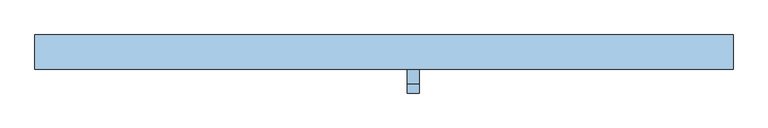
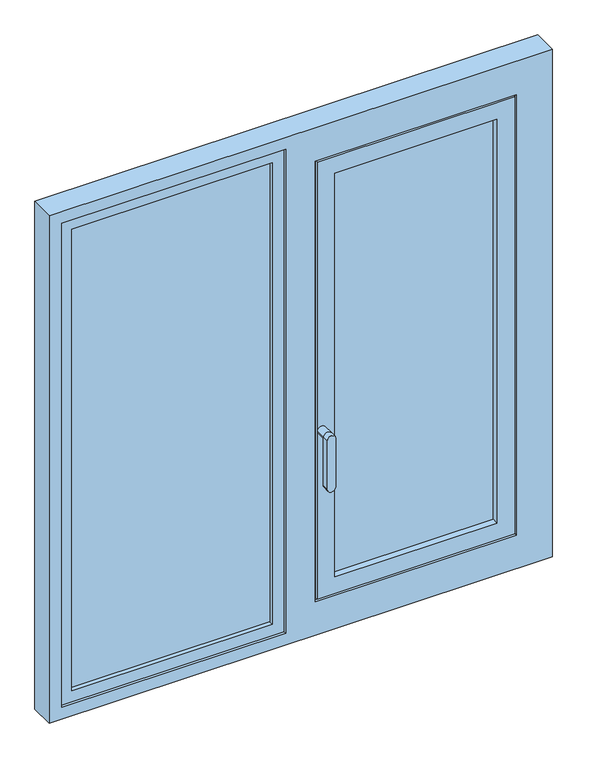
"""IFC4 building model written with IfcOpenShell, lengths in millimetres: window geometry, 900.04.033 : 900.04.033."""

from ifc_helpers import new_model, si_unit, frame, origin, place, context, project, spatial, polyline, circle_curve, outline, extrude, faceted_brep, source, transform, mapped, element, save
from ifc_brep_helpers import plane_surface, cylinder_surface, advanced_brep


def window_7ea07653(model_context):
    return source(origin(), model_context, "Body", "SolidModel", [
        advanced_brep(
        [(49.6035775, -24.9905812, 1442.0), (74.6035775, -24.9905812, 1442.0), (74.6035775, -54.9905812, 1442.0), (49.6035775, -54.9905812, 1442.0), (49.6035775, -74.9905812, 1442.0), (49.6035775, -74.9905812, 1292.0), (74.6035775, -74.9905812, 1292.0), (74.6035775, -74.9905812, 1442.0), (74.6035775, -54.9905812, 1292.0), (49.6035775, -54.9905812, 1292.0)],
        [
            (0, 1, circle_curve(frame((62.1035775, -24.9905812, 1442.0), z_axis=(0.0, 1.0, 0.0), x_axis=(1.0, 0.0, 0.0)), 12.5)),
            (1, 0, circle_curve(frame((62.1035775, -24.9905812, 1442.0), z_axis=(0.0, 1.0, 0.0), x_axis=(1.0, 0.0, 0.0)), 12.5)),
            (1, 2),
            (2, 3, circle_curve(frame((62.1035775, -54.9905812, 1442.0), z_axis=(0.0, 1.0, 0.0), x_axis=(1.0, 0.0, 0.0)), 12.5)),
            (3, 0),
            (3, 2, circle_curve(frame((62.1035775, -54.9905812, 1442.0), z_axis=(0.0, 1.0, 0.0), x_axis=(1.0, 0.0, 0.0)), 12.5)),
            (4, 5),
            (5, 6, circle_curve(frame((62.1035775, -74.9905812, 1292.0), z_axis=(0.0, -1.0, 0.0), x_axis=(1.0, 0.0, 0.0)), 12.5)),
            (6, 7),
            (7, 4, circle_curve(frame((62.1035775, -74.9905812, 1442.0), z_axis=(0.0, -1.0, 0.0), x_axis=(1.0, 0.0, 0.0)), 12.5)),
            (2, 8),
            (8, 9, circle_curve(frame((62.1035775, -54.9905812, 1292.0), z_axis=(0.0, 1.0, 0.0), x_axis=(1.0, 0.0, 0.0)), 12.5)),
            (9, 3),
            (4, 3),
            (9, 5),
            (8, 6),
            (2, 7),
        ],
        [
            plane_surface(frame((74.6035775, -24.9905812, 1442.0), z_axis=(0.0, 1.0, 0.0), x_axis=(0.0, 0.0, -1.0))),
            cylinder_surface(frame((62.1035775, -24.9905812, 1442.0), z_axis=(0.0, -1.0, 0.0), x_axis=(1.0, 0.0, 0.0)), 12.5),
            plane_surface(frame((49.6035775, -74.9905812, 1442.0), z_axis=(0.0, -1.0, 0.0), x_axis=(0.0, 0.0, -1.0))),
            plane_surface(frame((49.6035775, -54.9905812, 1442.0), z_axis=(0.0, 1.0, 0.0), x_axis=(0.0, 0.0, 1.0))),
            plane_surface(frame((49.6035775, -74.9905812, 1442.0), z_axis=(-1.0, 0.0, 0.0), x_axis=(0.0, 1.0, 0.0))),
            cylinder_surface(frame((62.1035775, -54.9905812, 1292.0), z_axis=(0.0, -1.0, 0.0), x_axis=(1.0, 0.0, 0.0)), 12.5),
            plane_surface(frame((74.6035775, -74.9905812, 1292.0), z_axis=(1.0, 0.0, 0.0), x_axis=(0.0, 1.0, 0.0))),
            cylinder_surface(frame((62.1035775, -54.9905812, 1442.0), z_axis=(0.0, -1.0, 0.0), x_axis=(1.0, 0.0, 0.0)), 12.5),
        ],
        [
            (0, [[1, 2]]),
            (1, [[-2, 3, 4, 5]]),
            (1, [[-1, -5, 6, -3]]),
            (2, [[7, 8, 9, 10]]),
            (3, [[11, 12, 13, -4]]),
            (4, [[-7, 14, -13, 15]]),
            (5, [[-8, -15, -12, 16]]),
            (6, [[-9, -16, -11, 17]]),
            (7, [[-10, -17, -6, -14]]),
        ],
    ),
        extrude(outline(polyline([(592.9971713, -5.0087582), (86.1528287, -5.0087582), (86.1528287, 39.4893721), (592.9971713, 39.4893721), (592.9971713, -5.0087582)])), frame((0.0, 0.0, 957.0028287), z_axis=(0.0, 0.0, 1.0), x_axis=(1.0, 0.0, 0.0)), (0.0, 0.0, 1.0), 1285.9943426),
        faceted_brep([(101.1484798, 48.0094652, 2228.0015202), (101.1484798, 41.0093721, 2228.0015202), (101.1484798, 41.0093721, 971.9984798), (101.1484798, 48.0094652, 971.9984798), (86.1528287, 41.0093721, 957.0028287), (592.9971713, 41.0093721, 957.0028287), (592.9971713, 41.0093721, 2242.9971713), (86.1528287, 41.0093721, 2242.9971713), (578.0015202, 41.0093721, 2228.0015202), (578.0015202, 41.0093721, 971.9984798), (578.0015202, 48.0094652, 971.9984798), (15.65, 48.0094652, 2313.5), (663.5, 48.0094652, 2313.5), (663.5, 48.0094652, 886.5), (15.65, 48.0094652, 886.5), (578.0015202, 48.0094652, 2228.0015202), (15.65, 40.0117115, 2313.5), (15.65, 40.0117115, 886.5), (663.5, 40.0117115, 886.5), (663.5, 40.0117115, 2313.5), (33.2493724, 40.0117115, 2295.9006276), (645.9006276, 40.0117115, 2295.9006276), (645.9006276, 40.0117115, 904.0993724), (33.2493724, 40.0117115, 904.0993724), (33.2504934, -16.7591735, 904.1004934), (33.2504934, -16.7591735, 2295.8995066), (645.8995066, -16.7591735, 904.1004934), (645.8995066, -16.7591735, 2295.8995066), (48.7522418, -16.7591735, 2280.3977582), (630.3977582, -16.7591735, 2280.3977582), (630.3977582, -16.7591735, 919.6022418), (48.7522418, -16.7591735, 919.6022418), (48.7522418, -24.9905812, 2280.3977582), (48.7522418, -24.9905812, 919.6022418), (630.3977582, -24.9905812, 919.6022418), (630.3977582, -24.9905812, 2280.3977582), (101.149394, -24.9905812, 2228.000606), (578.000606, -24.9905812, 2228.000606), (578.000606, -24.9905812, 971.999394), (101.149394, -24.9905812, 971.999394), (101.149394, -5.0087582, 2228.000606), (101.149394, -5.0087582, 971.999394), (578.000606, -5.0087582, 971.999394), (86.1528287, -5.0087582, 2242.9971713), (592.9971713, -5.0087582, 2242.9971713), (592.9971713, -5.0087582, 957.0028287), (86.1528287, -5.0087582, 957.0028287), (578.000606, -5.0087582, 2228.000606)], [[[0, 1, 2, 3]], [[4, 5, 6, 7], [1, 8, 9, 2]], [[3, 2, 9, 10]], [[11, 12, 13, 14], [3, 10, 15, 0]], [[16, 11, 14, 17]], [[17, 14, 13, 18]], [[17, 18, 19, 16], [20, 21, 22, 23]], [[20, 23, 24, 25]], [[24, 23, 22, 26]], [[24, 26, 27, 25], [28, 29, 30, 31]], [[32, 28, 31, 33]], [[33, 31, 30, 34]], [[33, 34, 35, 32], [36, 37, 38, 39]], [[40, 36, 39, 41]], [[41, 39, 38, 42]], [[43, 44, 45, 46], [41, 42, 47, 40]], [[7, 43, 46, 4]], [[4, 46, 45, 5]], [[10, 9, 8, 15]], [[18, 13, 12, 19]], [[26, 22, 21, 27]], [[34, 30, 29, 35]], [[42, 38, 37, 47]], [[5, 45, 44, 6]], [[15, 8, 1, 0]], [[19, 12, 11, 16]], [[27, 21, 20, 25]], [[35, 29, 28, 32]], [[47, 37, 36, 40]], [[6, 44, 43, 7]]]),
        extrude(outline(polyline([(-66.337503, -3.0195151), (-680.5146083, -3.0195151), (-680.5146083, 40.9835792), (-66.337503, 40.9835792), (-66.337503, -3.0195151)])), frame((0.0, 0.0, 869.4853917), z_axis=(0.0, 0.0, 1.0), x_axis=(1.0, 0.0, 0.0)), (0.0, 0.0, 1.0), 1461.0292166),
        faceted_brep([(-740.0, 48.0094652, 810.0), (-740.0, 48.0094652, 2390.0), (740.0, 48.0094652, 2390.0), (740.0, 48.0094652, 810.0), (-668.499933, 48.0094652, 2318.499933), (-668.499933, 48.0094652, 881.500067), (-78.3521769, 48.0094652, 881.5000426), (-78.3521769, 48.0094652, 2318.499933), (668.4999882, 48.0094652, 2318.4999882), (10.6479027, 48.0094652, 2318.499961), (10.6479027, 48.0094652, 881.500067), (668.4999882, 48.0094652, 881.5000118), (-740.0, -25.0, 810.0), (-740.0, -25.0, 2390.0), (740.0, -25.0, 2390.0), (740.0, -25.0, 810.0), (-668.499933, 40.9835792, 2318.499933), (-668.499933, 40.9835792, 881.500067), (-78.3521769, 40.9835792, 881.500067), (21.75, 40.013438, 881.500067), (668.4999882, 40.013438, 881.500067), (10.6479027, 40.9835792, 881.500067), (21.75, 40.9835792, 881.500067), (-78.3521769, 40.9835792, 2318.499933), (10.6479027, 40.9835792, 2318.499933), (10.6479027, 40.9835792, 2330.5146083), (10.6479027, 40.0188471, 2330.5146083), (10.6479027, 40.0188471, 869.4853917), (10.6479027, 40.9835792, 869.4853917), (668.4999882, 40.013438, 2318.4999882), (-702.9981774, -25.0, 847.0018226), (-702.9981774, -25.0, 2352.9981774), (-43.8539326, -25.0, 2352.9981774), (-43.8539326, -25.0, 847.0018226), (635.3980485, -25.0, 914.6019515), (43.7496601, -25.0, 914.6019515), (43.7496601, -25.0, 2285.3980485), (635.3980485, -25.0, 2285.3980485), (-702.9981774, -17.002732, 847.0018226), (-702.9981774, -17.002732, 2352.9981774), (-43.8539326, -17.002732, 2352.9981774), (-43.8539326, -17.002732, 847.0018226), (635.3980485, -16.7591752, 914.6019515), (43.7496601, -16.7591752, 914.6019515), (43.7496601, -16.7591752, 2285.3980485), (635.3980485, -16.7591752, 2285.3980485), (-668.499933, -17.002732, 881.500067), (-668.499933, -17.002732, 2318.499933), (-78.3521769, -17.002732, 2318.499933), (-78.3521769, -17.002732, 881.500067), (-668.499933, -3.0195151, 881.500067), (-668.499933, -3.0195151, 2318.499933), (-78.3521769, -3.0195151, 2318.499933), (-78.3521769, -3.0195151, 881.500067), (-680.5146083, -3.0195151, 869.4853917), (-680.5146083, -3.0195151, 2330.5146083), (-66.337503, -3.0195151, 2330.5146083), (-66.337503, -3.0195151, 869.4853917), (-680.5146083, 40.9835792, 869.4853917), (-680.5146083, 40.9835792, 2330.5146083), (-66.337503, 40.9835792, 2330.5146083), (-66.337503, 40.9835792, 869.4853917), (21.75, 40.0188471, 869.4853917), (21.75, 40.9835792, 869.4853917), (21.75, 40.9835792, 2318.499933), (21.75, 40.9835792, 2330.5146083), (21.75, 40.013438, 2330.5146083), (21.75, 40.013438, 2318.4999879), (657.4012319, 40.013438, 2307.4012319), (21.75, 40.013438, 2307.4012319), (21.75, 40.013438, 892.5987681), (657.4012319, 40.013438, 892.5987681), (657.4012319, -16.7591752, 2307.4012319), (657.4012319, -16.7591752, 892.5987681), (21.75, -16.7591752, 892.5987681), (21.75, -16.7591752, 2307.4012319)], [[[0, 1, 2, 3], [4, 5, 6, 7], [8, 9, 10, 11]], [[1, 0, 12, 13]], [[14, 15, 3, 2]], [[15, 12, 0, 3]], [[5, 4, 16, 17]], [[5, 17, 18, 6]], [[19, 20, 11, 10, 21, 22]], [[18, 23, 7, 6]], [[10, 9, 24, 25, 26, 27, 28, 21]], [[8, 11, 20, 29]], [[13, 12, 15, 14], [30, 31, 32, 33], [34, 35, 36, 37]], [[31, 30, 38, 39]], [[33, 32, 40, 41]], [[41, 38, 30, 33]], [[34, 42, 43, 35]], [[36, 35, 43, 44]], [[45, 42, 34, 37]], [[39, 38, 41, 40], [46, 47, 48, 49]], [[47, 46, 50, 51]], [[49, 48, 52, 53]], [[50, 46, 49, 53]], [[54, 55, 56, 57], [50, 53, 52, 51]], [[55, 54, 58, 59]], [[60, 61, 57, 56]], [[62, 63, 28, 27]], [[61, 58, 54, 57]], [[19, 22, 63, 62]], [[59, 58, 61, 60], [17, 16, 23, 18]], [[63, 22, 21, 28]], [[64, 65, 25, 24]], [[20, 19, 62, 27, 26, 66, 67, 29], [68, 69, 70, 71]], [[72, 73, 74, 75], [45, 44, 43, 42]], [[72, 68, 71, 73]], [[71, 70, 74, 73]], [[75, 74, 70, 69]], [[2, 1, 13, 14]], [[31, 39, 40, 32]], [[47, 51, 52, 48]], [[56, 55, 59, 60]], [[25, 65, 66, 26]], [[16, 4, 7, 23]], [[8, 29, 67, 64, 24, 9]], [[64, 67, 66, 65]], [[69, 68, 72, 75]], [[45, 37, 36, 44]]]),
    ])


if __name__ == "__main__":
    model = new_model("IFC4")
    model_context = context("Model", 3, world=origin())
    ifc_project = project(units=[si_unit("LENGTHUNIT", "METRE", prefix="MILLI")], contexts=[model_context])
    site = spatial("IfcSite", under=ifc_project)
    building = spatial("IfcBuilding", under=site)
    placement = place(None, origin())
    window_shape = window_7ea07653(model_context)
    element("IfcWindow", 1, ObjectType="900.04.033 : 900.04.033", at=placement, inside=building, context=model_context, shape_type="MappedRepresentation", body=[
        mapped(window_shape, transform((0.0, 0.0, 0.0), x_axis=(1.0, 0.0, 0.0), y_axis=(0.0, 1.0, 0.0), z_axis=(0.0, 0.0, 1.0))),
    ])
    save(model, "model.ifc")
